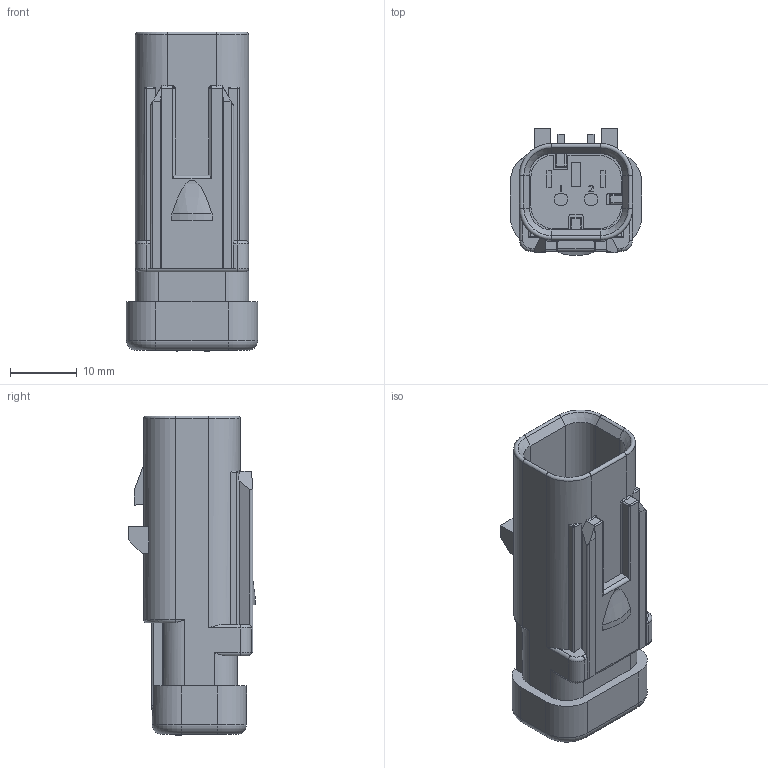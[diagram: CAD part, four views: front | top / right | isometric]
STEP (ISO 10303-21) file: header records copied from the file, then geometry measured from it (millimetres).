
FILE_DESCRIPTION((''),'2;1');
FILE_NAME('C-776534-1','2013-12-26T',('workeradm'),('Tyco Electronics Ltd.'),'PRO/ENGINEER BY PARAMETRIC TECHNOLOGY CORPORATION, 2013050','PRO/ENGINEER BY PARAMETRIC TECHNOLOGY CORPORATION, 2013050','');
FILE_SCHEMA(('AUTOMOTIVE_DESIGN { 1 0 10303 214 1 1 1 1 }'));
Length unit declared in the file: millimetre
Products named in the file (1): C-776534-1
Bounding box: 19.6 x 18.91 x 47.76 mm (x, y, z)
Volume: 8466 mm3; surface area: 4625.9 mm2
Topology: 1 solids, 1 shells, 356 faces, 903 edges, 569 vertices
Faces by surface type: plane 216, cylinder 101, torus 19, sphere 10, cone 9, bspline 1
Entity records: 10994 total; most frequent: CARTESIAN_POINT 2170, ORIENTED_EDGE 1806, DIRECTION 1781, EDGE_CURVE 903, VECTOR 653, LINE 653, VERTEX_POINT 569, AXIS2_PLACEMENT_3D 564
